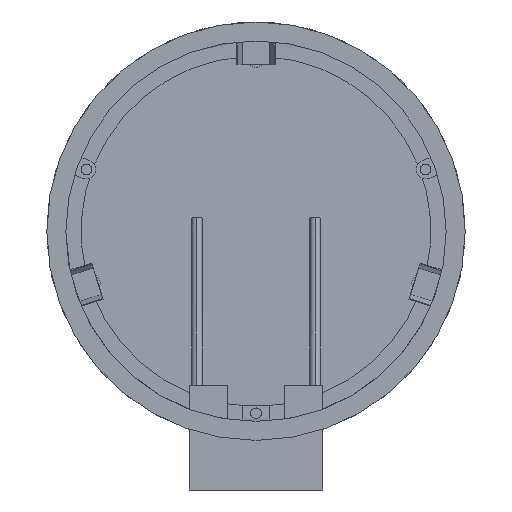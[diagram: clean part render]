
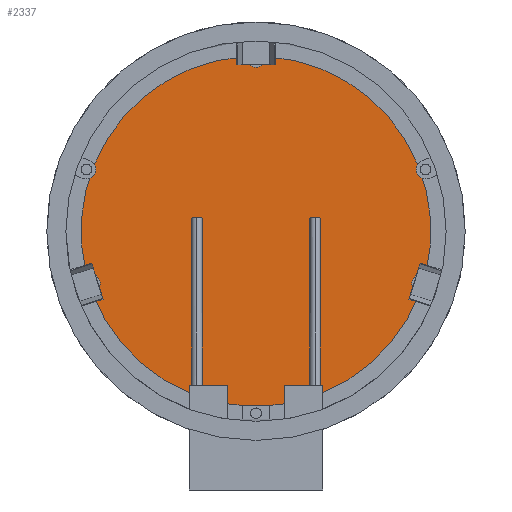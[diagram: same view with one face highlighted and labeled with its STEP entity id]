
A CAD part, front view. The second image highlights one B-rep face of the part: STEP entity #2337.
In plain terms, the highlighted planar face has unit normal (0, -1, 0).
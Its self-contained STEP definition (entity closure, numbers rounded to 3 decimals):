
#511=CARTESIAN_POINT('',(0.,-86.,0.));
#512=DIRECTION('',(0.,-1.,0.));
#513=DIRECTION('',(0.97,0.,-0.242));
#514=AXIS2_PLACEMENT_3D('',#511,#512,#513);
#525=CARTESIAN_POINT('',(0.,-86.,0.));
#526=DIRECTION('',(0.,-1.,0.));
#527=DIRECTION('',(-0.061,0.,0.998));
#528=AXIS2_PLACEMENT_3D('',#525,#526,#527);
#538=CARTESIAN_POINT('',(0.,-86.,0.));
#539=DIRECTION('',(0.,-1.,0.));
#540=DIRECTION('',(0.38,0.,-0.925));
#541=AXIS2_PLACEMENT_3D('',#538,#539,#540);
#565=CARTESIAN_POINT('',(0.,-86.,0.));
#566=DIRECTION('',(0.,-1.,0.));
#567=DIRECTION('',(-0.934,0.,-0.358));
#568=AXIS2_PLACEMENT_3D('',#565,#566,#567);
#588=CARTESIAN_POINT('',(0.,-86.,0.));
#589=DIRECTION('',(0.,-1.,0.));
#590=DIRECTION('',(-0.163,0.,-0.987));
#591=AXIS2_PLACEMENT_3D('',#588,#589,#590);
#593=DIRECTION('',(0.,0.,-1.));
#594=VECTOR('',#593,48.845);
#595=CARTESIAN_POINT('',(-75.,-86.,-405.));
#596=LINE('',#595,#594);
#597=DIRECTION('',(-1.,0.,0.));
#598=VECTOR('',#597,100.);
#599=CARTESIAN_POINT('',(-75.,-86.,-405.));
#600=LINE('',#599,#598);
#601=DIRECTION('',(0.,0.,1.));
#602=VECTOR('',#601,20.412);
#603=CARTESIAN_POINT('',(-175.,-86.,-425.412));
#604=LINE('',#603,#602);
#605=CARTESIAN_POINT('',(-437.756,-86.,-138.024));
#606=DIRECTION('',(0.,-1.,0.));
#607=DIRECTION('',(0.296,0.,-0.955));
#608=AXIS2_PLACEMENT_3D('',#605,#606,#607);
#610=CARTESIAN_POINT('',(-437.756,-86.,-138.024));
#611=DIRECTION('',(0.,-1.,0.));
#612=DIRECTION('',(0.301,0.,-0.954));
#613=AXIS2_PLACEMENT_3D('',#610,#611,#612);
#615=CARTESIAN_POINT('',(-437.756,-86.,-138.024));
#616=DIRECTION('',(0.,-1.,0.));
#617=DIRECTION('',(-0.301,0.,0.954));
#618=AXIS2_PLACEMENT_3D('',#615,#616,#617);
#620=CARTESIAN_POINT('',(0.,-86.,459.));
#621=DIRECTION('',(0.,-1.,0.));
#622=DIRECTION('',(-1.,0.,0.005));
#623=AXIS2_PLACEMENT_3D('',#620,#621,#622);
#625=CARTESIAN_POINT('',(0.,-86.,459.));
#626=DIRECTION('',(0.,-1.,0.));
#627=DIRECTION('',(-1.,0.,0.));
#628=AXIS2_PLACEMENT_3D('',#625,#626,#627);
#630=CARTESIAN_POINT('',(0.,-86.,459.));
#631=DIRECTION('',(0.,-1.,0.));
#632=DIRECTION('',(1.,0.,0.));
#633=AXIS2_PLACEMENT_3D('',#630,#631,#632);
#635=CARTESIAN_POINT('',(437.756,-86.,-138.024));
#636=DIRECTION('',(0.,1.,0.));
#637=DIRECTION('',(0.301,0.,0.954));
#638=AXIS2_PLACEMENT_3D('',#635,#636,#637);
#640=CARTESIAN_POINT('',(437.756,-86.,-138.024));
#641=DIRECTION('',(0.,1.,0.));
#642=DIRECTION('',(-0.301,0.,-0.954));
#643=AXIS2_PLACEMENT_3D('',#640,#641,#642);
#645=CARTESIAN_POINT('',(437.756,-86.,-138.024));
#646=DIRECTION('',(0.,1.,0.));
#647=DIRECTION('',(-0.296,0.,-0.955));
#648=AXIS2_PLACEMENT_3D('',#645,#646,#647);
#650=DIRECTION('',(0.,0.,-1.));
#651=VECTOR('',#650,20.412);
#652=CARTESIAN_POINT('',(175.,-86.,-405.));
#653=LINE('',#652,#651);
#654=DIRECTION('',(-1.,0.,0.));
#655=VECTOR('',#654,100.);
#656=CARTESIAN_POINT('',(175.,-86.,-405.));
#657=LINE('',#656,#655);
#658=DIRECTION('',(0.,0.,1.));
#659=VECTOR('',#658,48.845);
#660=CARTESIAN_POINT('',(75.,-86.,-453.845));
#661=LINE('',#660,#659);
#1455=CARTESIAN_POINT('',(175.,-86.,-405.));
#1456=CARTESIAN_POINT('',(175.,-86.,-425.412));
#1457=VERTEX_POINT('',#1455);
#1458=VERTEX_POINT('',#1456);
#1459=CARTESIAN_POINT('',(-175.,-86.,-425.412));
#1460=CARTESIAN_POINT('',(-175.,-86.,-405.));
#1461=VERTEX_POINT('',#1459);
#1462=VERTEX_POINT('',#1460);
#1471=CARTESIAN_POINT('',(429.336,-86.,-164.728));
#1472=VERTEX_POINT('',#1471);
#1473=CARTESIAN_POINT('',(446.176,-86.,-111.32));
#1474=VERTEX_POINT('',#1473);
#1525=CARTESIAN_POINT('',(-28.,-86.,459.));
#1526=VERTEX_POINT('',#1525);
#1527=CARTESIAN_POINT('',(28.,-86.,459.));
#1528=VERTEX_POINT('',#1527);
#1559=CARTESIAN_POINT('',(-429.336,-86.,-164.728));
#1560=VERTEX_POINT('',#1559);
#1561=CARTESIAN_POINT('',(-446.176,-86.,-111.32));
#1562=VERTEX_POINT('',#1561);
#1629=CARTESIAN_POINT('',(-75.,-86.,-405.));
#1630=VERTEX_POINT('',#1629);
#1631=CARTESIAN_POINT('',(75.,-86.,-405.));
#1632=VERTEX_POINT('',#1631);
#1637=CARTESIAN_POINT('',(-75.,-86.,-453.845));
#1638=CARTESIAN_POINT('',(75.,-86.,-453.845));
#1639=VERTEX_POINT('',#1637);
#1640=VERTEX_POINT('',#1638);
#1645=CARTESIAN_POINT('',(446.316,-86.,-111.364));
#1646=VERTEX_POINT('',#1645);
#1647=CARTESIAN_POINT('',(429.477,-86.,-164.772));
#1648=VERTEX_POINT('',#1647);
#1649=CARTESIAN_POINT('',(28.,-86.,459.147));
#1650=VERTEX_POINT('',#1649);
#1651=CARTESIAN_POINT('',(-28.,-86.,459.147));
#1652=VERTEX_POINT('',#1651);
#1653=CARTESIAN_POINT('',(-446.316,-86.,-111.364));
#1654=VERTEX_POINT('',#1653);
#1655=CARTESIAN_POINT('',(-429.477,-86.,-164.772));
#1656=VERTEX_POINT('',#1655);
#2299=CARTESIAN_POINT('',(0.,-86.,0.));
#2300=DIRECTION('',(0.,-1.,0.));
#2301=DIRECTION('',(1.,0.,0.));
#2302=AXIS2_PLACEMENT_3D('',#2299,#2300,#2301);
#2303=PLANE('',#2302);
#2305=ORIENTED_EDGE('',*,*,#2304,.F.);
#2306=ORIENTED_EDGE('',*,*,#2099,.F.);
#2308=ORIENTED_EDGE('',*,*,#2307,.T.);
#2309=ORIENTED_EDGE('',*,*,#2158,.F.);
#2310=ORIENTED_EDGE('',*,*,#2249,.F.);
#2312=ORIENTED_EDGE('',*,*,#2311,.T.);
#2314=ORIENTED_EDGE('',*,*,#2313,.T.);
#2316=ORIENTED_EDGE('',*,*,#2315,.T.);
#2317=ORIENTED_EDGE('',*,*,#2218,.F.);
#2318=ORIENTED_EDGE('',*,*,#2261,.T.);
#2319=ORIENTED_EDGE('',*,*,#2284,.T.);
#2320=ORIENTED_EDGE('',*,*,#2266,.T.);
#2321=ORIENTED_EDGE('',*,*,#2205,.F.);
#2323=ORIENTED_EDGE('',*,*,#2322,.F.);
#2325=ORIENTED_EDGE('',*,*,#2324,.F.);
#2327=ORIENTED_EDGE('',*,*,#2326,.F.);
#2328=ORIENTED_EDGE('',*,*,#2232,.F.);
#2330=ORIENTED_EDGE('',*,*,#2329,.F.);
#2332=ORIENTED_EDGE('',*,*,#2331,.T.);
#2334=ORIENTED_EDGE('',*,*,#2333,.F.);
#2335=EDGE_LOOP('',(#2305,#2306,#2308,#2309,#2310,#2312,#2314,#2316,#2317,#2318,
#2319,#2320,#2321,#2323,#2325,#2327,#2328,#2330,#2332,#2334));
#2336=FACE_OUTER_BOUND('',#2335,.F.);
#515=CIRCLE('',#514,460.);
#529=CIRCLE('',#528,460.);
#542=CIRCLE('',#541,460.);
#569=CIRCLE('',#568,460.);
#592=CIRCLE('',#591,460.);
#609=CIRCLE('',#608,28.);
#614=CIRCLE('',#613,28.);
#619=CIRCLE('',#618,28.);
#624=CIRCLE('',#623,28.);
#629=CIRCLE('',#628,28.);
#634=CIRCLE('',#633,28.);
#639=CIRCLE('',#638,28.);
#644=CIRCLE('',#643,28.);
#649=CIRCLE('',#648,28.);
#2099=EDGE_CURVE('',#1630,#1639,#596,.T.);
#2158=EDGE_CURVE('',#1461,#1462,#604,.T.);
#2205=EDGE_CURVE('',#1646,#1650,#515,.T.);
#2218=EDGE_CURVE('',#1652,#1654,#529,.T.);
#2232=EDGE_CURVE('',#1458,#1648,#542,.T.);
#2249=EDGE_CURVE('',#1656,#1461,#569,.T.);
#2261=EDGE_CURVE('',#1652,#1526,#624,.T.);
#2266=EDGE_CURVE('',#1528,#1650,#634,.T.);
#2284=EDGE_CURVE('',#1526,#1528,#629,.T.);
#2304=EDGE_CURVE('',#1639,#1640,#592,.T.);
#2307=EDGE_CURVE('',#1630,#1462,#600,.T.);
#2311=EDGE_CURVE('',#1656,#1560,#609,.T.);
#2313=EDGE_CURVE('',#1560,#1562,#614,.T.);
#2315=EDGE_CURVE('',#1562,#1654,#619,.T.);
#2322=EDGE_CURVE('',#1474,#1646,#639,.T.);
#2324=EDGE_CURVE('',#1472,#1474,#644,.T.);
#2326=EDGE_CURVE('',#1648,#1472,#649,.T.);
#2329=EDGE_CURVE('',#1457,#1458,#653,.T.);
#2331=EDGE_CURVE('',#1457,#1632,#657,.T.);
#2333=EDGE_CURVE('',#1640,#1632,#661,.T.);
#2337=ADVANCED_FACE('',(#2336),#2303,.T.);
